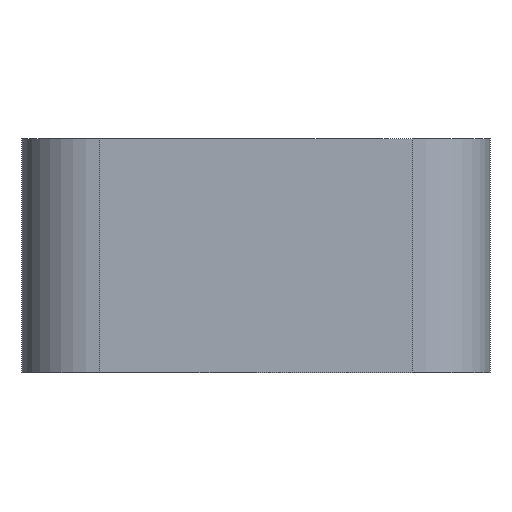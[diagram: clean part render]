
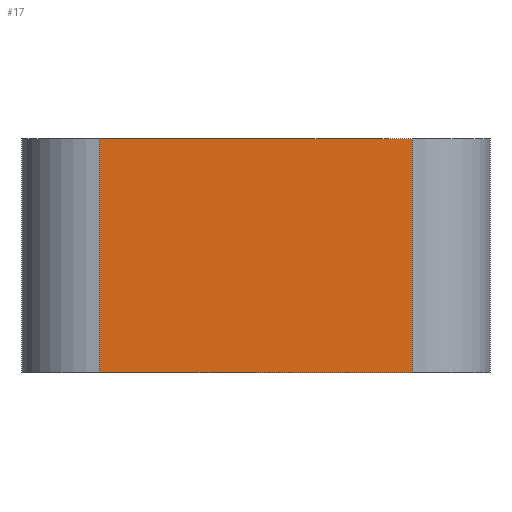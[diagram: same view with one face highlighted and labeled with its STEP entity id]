
A CAD part, left-side view. The second image highlights one B-rep face of the part: STEP entity #17.
In plain terms, the highlighted planar face has unit normal (-1, 0, 0).
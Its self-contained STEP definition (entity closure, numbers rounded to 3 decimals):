
#17 = ADVANCED_FACE('',(#18),#32,.F.);
#18 = FACE_BOUND('',#19,.F.);
#19 = EDGE_LOOP('',(#20,#55,#83,#111));
#20 = ORIENTED_EDGE('',*,*,#21,.F.);
#21 = EDGE_CURVE('',#22,#24,#26,.T.);
#22 = VERTEX_POINT('',#23);
#23 = CARTESIAN_POINT('',(-5.5,-2.,3.));
#24 = VERTEX_POINT('',#25);
#25 = CARTESIAN_POINT('',(-5.5,2.,3.));
#26 = SURFACE_CURVE('',#27,(#31,#43),.PCURVE_S1.);
#27 = LINE('',#28,#29);
#28 = CARTESIAN_POINT('',(-5.5,-3.,3.));
#29 = VECTOR('',#30,1.);
#30 = DIRECTION('',(0.,1.,0.));
#31 = PCURVE('',#32,#37);
#32 = PLANE('',#33);
#33 = AXIS2_PLACEMENT_3D('',#34,#35,#36);
#34 = CARTESIAN_POINT('',(-5.5,-3.,0.));
#35 = DIRECTION('',(1.,0.,0.));
#36 = DIRECTION('',(0.,0.,1.));
#37 = DEFINITIONAL_REPRESENTATION('',(#38),#42);
#38 = LINE('',#39,#40);
#39 = CARTESIAN_POINT('',(3.,0.));
#40 = VECTOR('',#41,1.);
#41 = DIRECTION('',(0.,-1.));
#42 = ( GEOMETRIC_REPRESENTATION_CONTEXT(2) 
PARAMETRIC_REPRESENTATION_CONTEXT() REPRESENTATION_CONTEXT('2D SPACE',''
  ) );
#43 = PCURVE('',#44,#49);
#44 = PLANE('',#45);
#45 = AXIS2_PLACEMENT_3D('',#46,#47,#48);
#46 = CARTESIAN_POINT('',(-5.5,-3.,3.));
#47 = DIRECTION('',(0.,0.,1.));
#48 = DIRECTION('',(1.,0.,0.));
#49 = DEFINITIONAL_REPRESENTATION('',(#50),#54);
#50 = LINE('',#51,#52);
#51 = CARTESIAN_POINT('',(0.,0.));
#52 = VECTOR('',#53,1.);
#53 = DIRECTION('',(0.,1.));
#54 = ( GEOMETRIC_REPRESENTATION_CONTEXT(2) 
PARAMETRIC_REPRESENTATION_CONTEXT() REPRESENTATION_CONTEXT('2D SPACE',''
  ) );
#55 = ORIENTED_EDGE('',*,*,#56,.F.);
#56 = EDGE_CURVE('',#57,#22,#59,.T.);
#57 = VERTEX_POINT('',#58);
#58 = CARTESIAN_POINT('',(-5.5,-2.,0.));
#59 = SURFACE_CURVE('',#60,(#64,#71),.PCURVE_S1.);
#60 = LINE('',#61,#62);
#61 = CARTESIAN_POINT('',(-5.5,-2.,0.));
#62 = VECTOR('',#63,1.);
#63 = DIRECTION('',(0.,0.,1.));
#64 = PCURVE('',#32,#65);
#65 = DEFINITIONAL_REPRESENTATION('',(#66),#70);
#66 = LINE('',#67,#68);
#67 = CARTESIAN_POINT('',(0.,-1.));
#68 = VECTOR('',#69,1.);
#69 = DIRECTION('',(1.,0.));
#70 = ( GEOMETRIC_REPRESENTATION_CONTEXT(2) 
PARAMETRIC_REPRESENTATION_CONTEXT() REPRESENTATION_CONTEXT('2D SPACE',''
  ) );
#71 = PCURVE('',#72,#77);
#72 = CYLINDRICAL_SURFACE('',#73,1.);
#73 = AXIS2_PLACEMENT_3D('',#74,#75,#76);
#74 = CARTESIAN_POINT('',(-4.5,-2.,0.));
#75 = DIRECTION('',(0.,0.,1.));
#76 = DIRECTION('',(-1.,-0.,0.));
#77 = DEFINITIONAL_REPRESENTATION('',(#78),#82);
#78 = LINE('',#79,#80);
#79 = CARTESIAN_POINT('',(0.,0.));
#80 = VECTOR('',#81,1.);
#81 = DIRECTION('',(0.,1.));
#82 = ( GEOMETRIC_REPRESENTATION_CONTEXT(2) 
PARAMETRIC_REPRESENTATION_CONTEXT() REPRESENTATION_CONTEXT('2D SPACE',''
  ) );
#83 = ORIENTED_EDGE('',*,*,#84,.T.);
#84 = EDGE_CURVE('',#57,#85,#87,.T.);
#85 = VERTEX_POINT('',#86);
#86 = CARTESIAN_POINT('',(-5.5,2.,0.));
#87 = SURFACE_CURVE('',#88,(#92,#99),.PCURVE_S1.);
#88 = LINE('',#89,#90);
#89 = CARTESIAN_POINT('',(-5.5,-3.,0.));
#90 = VECTOR('',#91,1.);
#91 = DIRECTION('',(0.,1.,0.));
#92 = PCURVE('',#32,#93);
#93 = DEFINITIONAL_REPRESENTATION('',(#94),#98);
#94 = LINE('',#95,#96);
#95 = CARTESIAN_POINT('',(0.,0.));
#96 = VECTOR('',#97,1.);
#97 = DIRECTION('',(0.,-1.));
#98 = ( GEOMETRIC_REPRESENTATION_CONTEXT(2) 
PARAMETRIC_REPRESENTATION_CONTEXT() REPRESENTATION_CONTEXT('2D SPACE',''
  ) );
#99 = PCURVE('',#100,#105);
#100 = PLANE('',#101);
#101 = AXIS2_PLACEMENT_3D('',#102,#103,#104);
#102 = CARTESIAN_POINT('',(-5.5,-3.,0.));
#103 = DIRECTION('',(0.,0.,1.));
#104 = DIRECTION('',(1.,0.,0.));
#105 = DEFINITIONAL_REPRESENTATION('',(#106),#110);
#106 = LINE('',#107,#108);
#107 = CARTESIAN_POINT('',(0.,0.));
#108 = VECTOR('',#109,1.);
#109 = DIRECTION('',(0.,1.));
#110 = ( GEOMETRIC_REPRESENTATION_CONTEXT(2) 
PARAMETRIC_REPRESENTATION_CONTEXT() REPRESENTATION_CONTEXT('2D SPACE',''
  ) );
#111 = ORIENTED_EDGE('',*,*,#112,.T.);
#112 = EDGE_CURVE('',#85,#24,#113,.T.);
#113 = SURFACE_CURVE('',#114,(#118,#125),.PCURVE_S1.);
#114 = LINE('',#115,#116);
#115 = CARTESIAN_POINT('',(-5.5,2.,0.));
#116 = VECTOR('',#117,1.);
#117 = DIRECTION('',(0.,0.,1.));
#118 = PCURVE('',#32,#119);
#119 = DEFINITIONAL_REPRESENTATION('',(#120),#124);
#120 = LINE('',#121,#122);
#121 = CARTESIAN_POINT('',(0.,-5.));
#122 = VECTOR('',#123,1.);
#123 = DIRECTION('',(1.,0.));
#124 = ( GEOMETRIC_REPRESENTATION_CONTEXT(2) 
PARAMETRIC_REPRESENTATION_CONTEXT() REPRESENTATION_CONTEXT('2D SPACE',''
  ) );
#125 = PCURVE('',#126,#131);
#126 = CYLINDRICAL_SURFACE('',#127,1.);
#127 = AXIS2_PLACEMENT_3D('',#128,#129,#130);
#128 = CARTESIAN_POINT('',(-4.5,2.,0.));
#129 = DIRECTION('',(0.,0.,1.));
#130 = DIRECTION('',(-1.,-0.,0.));
#131 = DEFINITIONAL_REPRESENTATION('',(#132),#136);
#132 = LINE('',#133,#134);
#133 = CARTESIAN_POINT('',(-0.,0.));
#134 = VECTOR('',#135,1.);
#135 = DIRECTION('',(-0.,1.));
#136 = ( GEOMETRIC_REPRESENTATION_CONTEXT(2) 
PARAMETRIC_REPRESENTATION_CONTEXT() REPRESENTATION_CONTEXT('2D SPACE',''
  ) );
